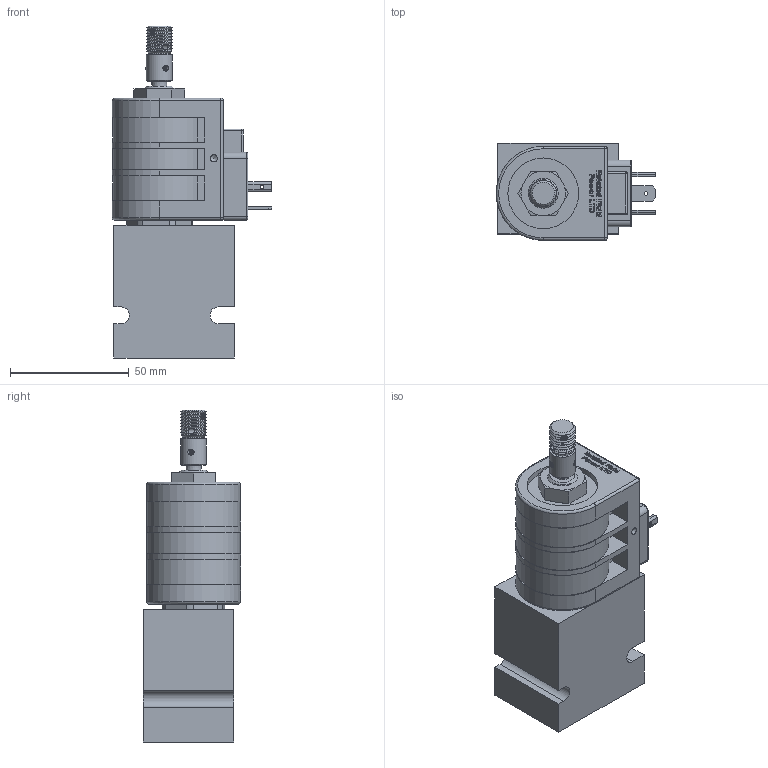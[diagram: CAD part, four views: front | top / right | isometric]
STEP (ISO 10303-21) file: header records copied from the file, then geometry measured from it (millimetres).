
FILE_DESCRIPTION( ( 'Unknown' ), '1' );
FILE_NAME( 'G:/Graphic Design/Graphic Design 2/Data Sheets/SOLENOID OPERATED VALVES/4_STEP/2W2P Normally Closed/DE-S2H0M-B2.stp', 'Unknown', ( 'Unknown' ), ( 'Unknown' ), 'PSStep 15.0.49', 'Unknown', ' ' );
FILE_SCHEMA( ( 'AUTOMOTIVE_DESIGN { 1 0 10303 214 1 1 1 1 }' ) );
Length unit declared in the file: millimetre
Products named in the file (19): D-DHC12_24; DHC-Body; DHC-Disc; DHC-Disc-oa0; PT-EL-HC-TerminalConnectors; D-DE-S2G-0M-delta; DES2G0M-3D Full1; DES2G0M-3D Full2; DES2G0M-3D Full3; DES2G0M-3D Full4; DES2G0M-3D Full5; DES2G0M-3D Full6; DES2G0M-3D Full7; Delta_1_2_nut1; Assem1; B-DDEB2
Assembly tree (18 placements, depth 3):
  Assem1
    B-DDEB2
    D-DHC12_24
      DHC-Body
      DHC-Disc
      DHC-Disc-oa0
      PT-EL-HC-TerminalConnectors
      PT-EL-HC-TerminalConnectors
      PT-EL-HC-TerminalConnectors
      PT-EL-HC-TerminalConnectors
    D-DE-S2G-0M-delta
      DES2G0M-3D Full1
      DES2G0M-3D Full2
      DES2G0M-3D Full3
      DES2G0M-3D Full4
      DES2G0M-3D Full5
      DES2G0M-3D Full6
      DES2G0M-3D Full7
      Delta_1_2_nut1
Bounding box: 67.2 x 40.9 x 139.94 mm (x, y, z)
Volume: 188066 mm3; surface area: 48193.7 mm2
Topology: 16 solids, 16 shells, 736 faces, 1851 edges, 1183 vertices
Faces by surface type: plane 327, cone 171, extrusion 118, cylinder 104, torus 10, sphere 6
Full cylindrical faces by diameter (mm): 0.2 x2, 1 x1, 1.5 x3, 2.426 x2, 2.5 x1, 3 x2, 3.556 x8, 4.75 x1, 9.144 x1, 9.52 x1, 9.53 x2, 10.161 x1, 10.922 x1, 12 x1, 12.675 x1, 12.7 x3, 12.992 x1, 13 x1, 13.043 x2, 14 x1, 15 x4, 15.684 x2, 15.761 x2, 15.9 x1, 17.043 x1, 17.297 x1, 19.624 x1, 20.262 x2, 24.2 x2, 29.85 x2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
Entity records: 29060 total; most frequent: CARTESIAN_POINT 6778, ORIENTED_EDGE 3252, DIRECTION 2931, EDGE_CURVE 1626, VERTEX_POINT 1146, AXIS2_PLACEMENT_3D 1002, EDGE_LOOP 1000, VECTOR 927
